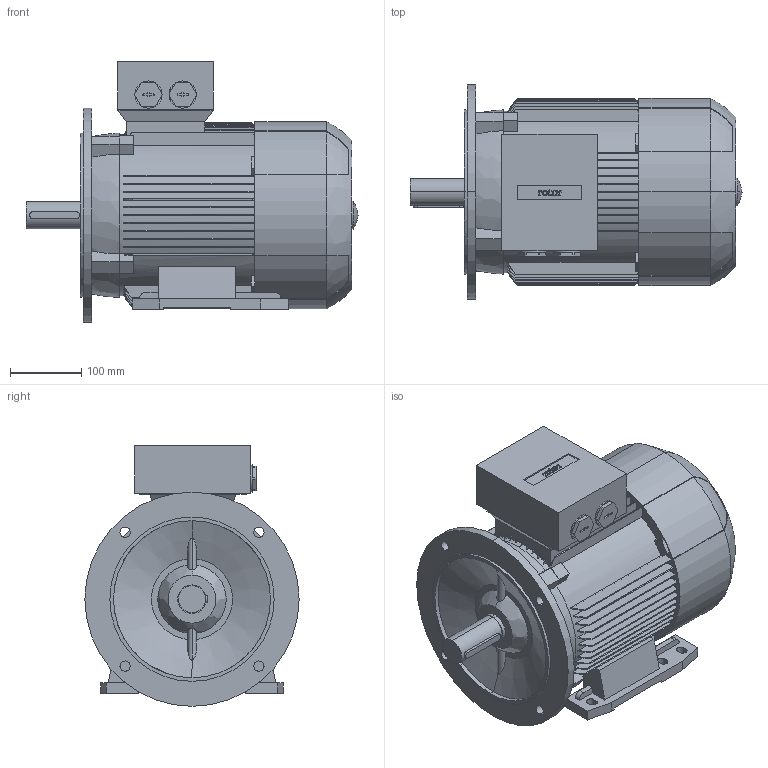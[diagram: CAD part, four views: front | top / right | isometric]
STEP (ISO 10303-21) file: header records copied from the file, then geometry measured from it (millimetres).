
FILE_DESCRIPTION (( 'STEP AP214' ), '1' );
FILE_NAME ('6RN132M04E22 IM2001.STEP', '2014-09-15T12:07:52', ( 'rbc_ict' ), ( 'REGAL' ), 'SwSTEP 2.0', 'SolidWorks 2012', '' );
FILE_SCHEMA (( 'AUTOMOTIVE_DESIGN' ));
Length unit declared in the file: millimetre
Products named in the file (1): 6RN132M04E22 IM2001
Bounding box: 465 x 300 x 365 mm (x, y, z)
Volume: 19573315.6 mm3; surface area: 847561.5 mm2
Topology: 1 solids, 1 shells, 680 faces, 1938 edges, 1281 vertices
Faces by surface type: plane 390, bspline 155, cylinder 129, cone 6
Entity records: 27026 total; most frequent: CARTESIAN_POINT 10271, ORIENTED_EDGE 3872, DIRECTION 2955, EDGE_CURVE 1936, VERTEX_POINT 1281, VECTOR 1121, LINE 1121, AXIS2_PLACEMENT_3D 917
